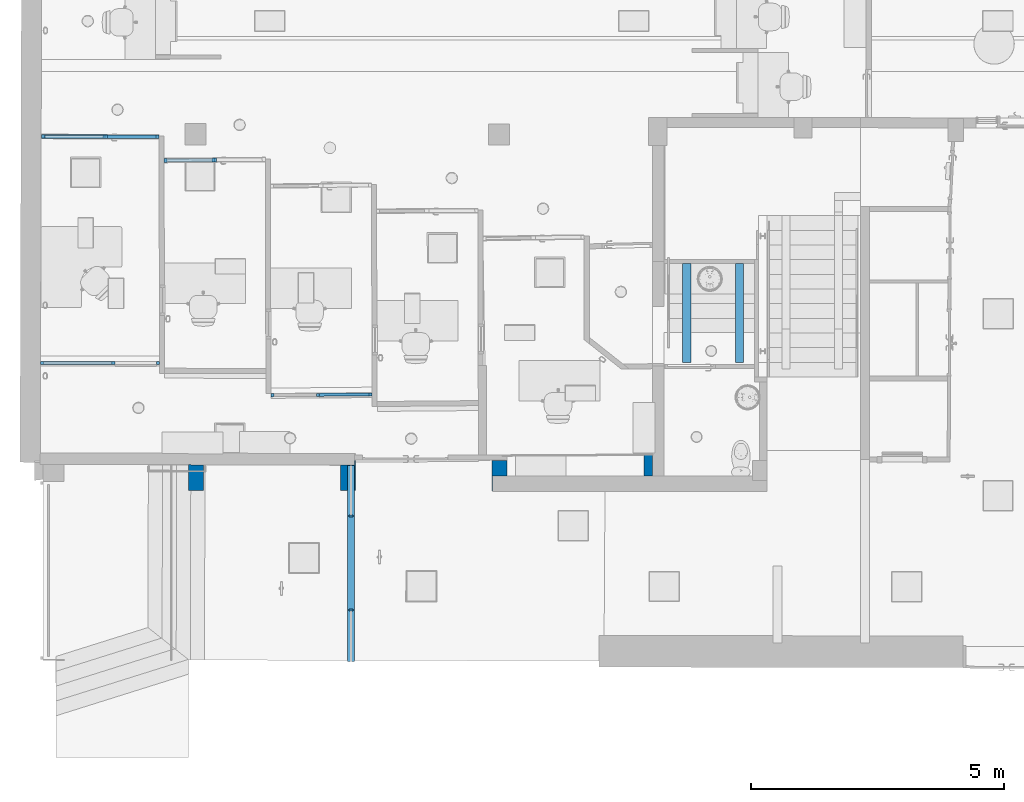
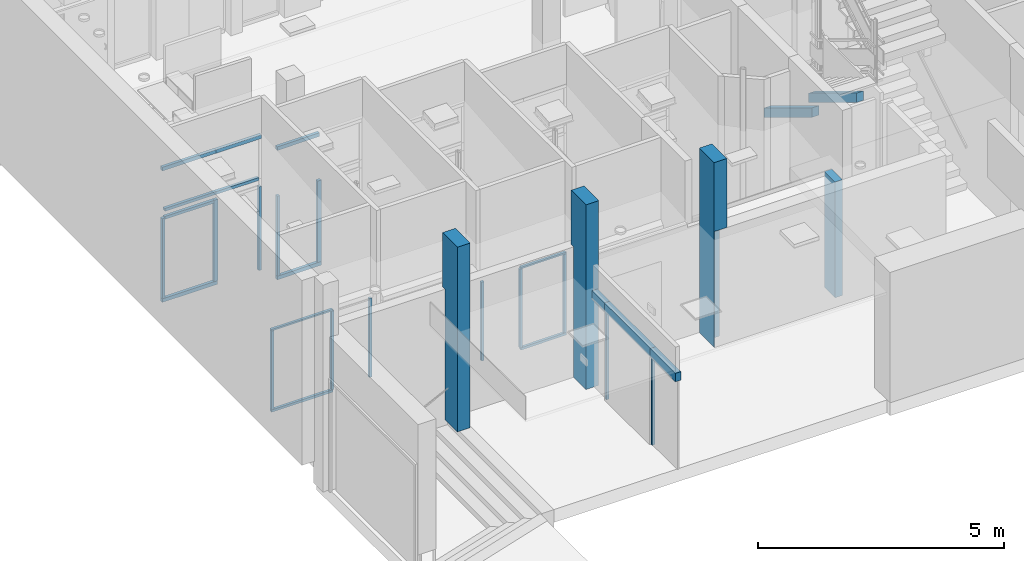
# One storey, part 6 of 128: 30 members, 4 columns, 6 elements without a shape of their own.
"""IFC2X3 building model written with IfcOpenShell, lengths in metres."""

from ifc_helpers import new_model, entity, si_unit, converted_unit, derived_unit, direction, frame, frame_2d, origin, origin_2d_with_axis, place, context, subcontext, project, spatial, polyline, rectangle, outline, extrude, faceted_brep, source, transform, mapped, material, type_object, type_shapes, element, aggregate, save


model = new_model("IFC2X3")

# Units and contexts
model_context = context("Model", 3, precision=1e-05, world=origin(), true_north=direction((6.123031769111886e-17, 1.0)))
body_context = subcontext(model_context, "Body", "Model", "MODEL_VIEW")
ifc_project = project(units=[si_unit("LENGTHUNIT", "METRE"), si_unit("AREAUNIT", "SQUARE_METRE"), converted_unit("PLANEANGLEUNIT", "DEGREE", entity("IfcPlaneAngleMeasure", 0.017453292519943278), si_unit("PLANEANGLEUNIT", "RADIAN"), dimensions=[0, 0, 0, 0, 0, 0, 0]), derived_unit("THERMALTRANSMITTANCEUNIT", [(si_unit("MASSUNIT", "GRAM", prefix="KILO"), 1), (si_unit("THERMODYNAMICTEMPERATUREUNIT", "KELVIN"), -1), (si_unit("TIMEUNIT", "SECOND"), -3)])], contexts=[model_context])

# Site, building, storey
site_placement = place(None, origin())
site = spatial("IfcSite", under=ifc_project, at=site_placement, Name="Default", CompositionType="ELEMENT")
building_placement = place(site_placement, origin())
building = spatial("IfcBuilding", under=site, at=building_placement, CompositionType="ELEMENT")
storey_placement = place(building_placement, origin())
storey = spatial("IfcBuildingStorey", under=building, at=storey_placement, Name="00_RDC CAF", CompositionType="ELEMENT", Elevation=2.4982504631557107e-13)

# Columns
ifc_material_1 = material(Name="STR - Beton")
column_type_1 = type_object("IfcColumnType", Name="Po_Beton_Rectangulaire:Po_Beton_Rectangulaire_600x300mm", PredefinedType="COLUMN", material=ifc_material_1)
shared_shape_1 = source(origin(), body_context, "Body", "Brep", [
    faceted_brep([(9.888336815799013, 129.511482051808, 0.0), (9.588337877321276, 129.512280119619, 0.0), (9.58968040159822, 130.0169438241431, 0.0), (9.889679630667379, 130.01625499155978, 0.0), (9.888336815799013, 129.51148205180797, 2.4000000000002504), (9.888336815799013, 129.51148205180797, 2.47000000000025), (9.888336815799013, 129.511482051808, 4.578000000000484), (9.588337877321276, 129.512280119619, 4.578000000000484), (9.588337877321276, 129.512280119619, 2.4700000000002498), (9.588337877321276, 129.512280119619, 2.40000000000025), (9.589934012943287, 130.11227799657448, 4.578000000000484), (9.589934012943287, 130.11227799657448, 3.230000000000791), (9.589680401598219, 130.0169438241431, 3.230000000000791), (9.889932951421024, 130.11147992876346, 4.578000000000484), (9.889932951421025, 130.11147992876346, 3.230000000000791), (9.889679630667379, 130.0162549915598, 3.230000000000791)], [[[0, 1, 2, 3]], [[1, 0, 4, 5, 6, 7, 8, 9]], [[1, 9, 8, 7, 10, 11, 12, 2]], [[10, 13, 14, 11]], [[6, 5, 4, 0, 3, 15, 14, 13]], [[7, 6, 13, 10]], [[12, 15, 3, 2]], [[15, 12, 11, 14]]]),
])
type_shapes(column_type_1, [shared_shape_1])
column_1_placement = place(storey_placement, origin())
element("IfcColumn", 1, at=column_1_placement, inside=storey, type_object=column_type_1, material=ifc_material_1, Name="Po_Beton_Rectangulaire:Po_Beton_Rectangulaire_600x300mm", ObjectType="Po_Beton_Rectangulaire:Po_Beton_Rectangulaire_600x300mm", context=body_context, shape_type="MappedRepresentation", body=[
    mapped(shared_shape_1, transform((0.0, 0.0, 0.0), scale=1.0)),
])
column_type_2 = type_object("IfcColumnType", Name="Po_Beton_Rectangulaire:Po_Beton_Rectangulaire_600x300mm", PredefinedType="COLUMN", material=ifc_material_1)
shared_shape_2 = source(origin(), body_context, "Body", "Brep", [
    faceted_brep([(12.89613188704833, 129.504575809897, 0.0), (12.596132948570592, 129.505373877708, 0.0), (12.597475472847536, 130.01003758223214, 0.0), (12.877128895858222, 130.00939546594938, 0.0), (12.877347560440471, 130.10462790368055, 0.0), (12.897728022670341, 130.10457368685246, 0.0), (12.896131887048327, 129.50457580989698, 2.6000000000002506), (12.896131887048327, 129.50457580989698, 2.6700000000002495), (12.89613188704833, 129.504575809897, 4.578000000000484), (12.59613294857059, 129.505373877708, 4.578000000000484), (12.59613294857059, 129.505373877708, 2.4700000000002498), (12.59613294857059, 129.505373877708, 2.40000000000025), (12.597729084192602, 130.10537175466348, 4.578000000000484), (12.597729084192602, 130.10537175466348, 3.230000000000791), (12.597475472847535, 130.01003758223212, 3.230000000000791), (12.897728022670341, 130.10457368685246, 4.578000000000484), (12.877347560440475, 130.10462790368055, 3.230000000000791), (12.877128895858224, 130.00939546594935, 3.230000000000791)], [[[0, 1, 2, 3, 4, 5]], [[1, 0, 6, 7, 8, 9, 10, 11]], [[1, 11, 10, 9, 12, 13, 14, 2]], [[12, 15, 5, 4, 16, 13]], [[0, 5, 15, 8, 7, 6]], [[9, 8, 15, 12]], [[14, 17, 3, 2]], [[17, 14, 13, 16]], [[3, 17, 16, 4]]]),
])
type_shapes(column_type_2, [shared_shape_2])
column_2_placement = place(storey_placement, origin())
element("IfcColumn", 2, at=column_2_placement, inside=storey, type_object=column_type_2, material=ifc_material_1, Name="Po_Beton_Rectangulaire:Po_Beton_Rectangulaire_600x300mm", ObjectType="Po_Beton_Rectangulaire:Po_Beton_Rectangulaire_600x300mm", context=body_context, shape_type="MappedRepresentation", body=[
    mapped(shared_shape_2, transform((0.0, 0.0, 0.0), scale=1.0)),
])
column_type_3 = type_object("IfcColumnType", Name="Po_Beton_Rectangulaire:Po_Beton_Rectangulaire_600x300mm", PredefinedType="COLUMN", material=ifc_material_1)
shared_shape_3 = source(origin(), body_context, "Body", "Brep", [
    faceted_brep([(15.593644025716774, 129.4984727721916, 0.0), (15.595240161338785, 130.0984706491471, 0.0), (15.895239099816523, 130.09767258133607, 0.0), (15.894421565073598, 129.7903558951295, 0.0), (15.606187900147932, 129.7903558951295, 0.0), (15.606187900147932, 129.49843940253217, 0.0), (15.893642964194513, 129.49767470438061, 4.578000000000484), (15.593644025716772, 129.4984727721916, 4.578000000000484), (15.606187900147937, 129.49843940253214, 2.8694000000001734), (15.893642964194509, 129.4976747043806, 2.8694000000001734), (15.595240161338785, 130.0984706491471, 4.578000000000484), (15.895239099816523, 130.09767258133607, 4.578000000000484), (15.894421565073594, 129.79035589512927, 2.8694000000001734), (15.606187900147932, 129.7903558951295, 2.8694000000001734)], [[[0, 1, 2, 3, 4, 5]], [[6, 7, 0, 5, 8, 9]], [[1, 0, 7, 10]], [[2, 1, 10, 11]], [[2, 11, 6, 9, 12, 3]], [[7, 6, 11, 10]], [[13, 4, 3, 12]], [[4, 13, 8, 5]], [[13, 12, 9, 8]]]),
])
type_shapes(column_type_3, [shared_shape_3])
column_3_placement = place(storey_placement, origin())
element("IfcColumn", 3, at=column_3_placement, inside=storey, type_object=column_type_3, material=ifc_material_1, Name="Po_Beton_Rectangulaire:Po_Beton_Rectangulaire_600x300mm", ObjectType="Po_Beton_Rectangulaire:Po_Beton_Rectangulaire_600x300mm", context=body_context, shape_type="MappedRepresentation", body=[
    mapped(shared_shape_3, transform((0.0, 0.0, 0.0), scale=1.0)),
])
column_type_4 = type_object("IfcColumnType", Name="Po_Beton_Rectangulaire:Po_Beton_Rectangulaire_450x300mm", PredefinedType="COLUMN", material=ifc_material_1)
shared_shape_4 = source(origin(), body_context, "Body", "Brep", [
    faceted_brep([(18.598684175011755, 129.79035589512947, 0.0), (18.59984352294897, 130.22616240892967, 0.0), (18.77071411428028, 130.2257078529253, 0.0), (18.77071411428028, 129.7903558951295, 0.0), (18.59984352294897, 130.22616240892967, 2.8694000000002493), (18.598684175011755, 129.79035589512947, 2.8694000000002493), (18.77071411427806, 130.2257078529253, 2.8694000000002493), (18.77071411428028, 129.7903558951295, 2.8694000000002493)], [[[0, 1, 2, 3]], [[4, 1, 0, 5]], [[1, 4, 6, 2]], [[4, 5, 7, 6]], [[5, 0, 3, 7]], [[3, 2, 6, 7]]]),
])
type_shapes(column_type_4, [shared_shape_4])
column_4_placement = place(storey_placement, origin())
element("IfcColumn", 4, at=column_4_placement, inside=storey, type_object=column_type_4, material=ifc_material_1, Name="Po_Beton_Rectangulaire:Po_Beton_Rectangulaire_450x300mm", ObjectType="Po_Beton_Rectangulaire:Po_Beton_Rectangulaire_450x300mm", context=body_context, shape_type="MappedRepresentation", body=[
    mapped(shared_shape_4, transform((0.0, 0.0, 0.0), scale=1.0)),
])

# Curtain wall, member
curtain_wall_type_1 = type_object("IfcCurtainWallType", Name="Mur-rideau:M.Ri_Vitre_40mm_Montant_70X90mm", PredefinedType="NOTDEFINED")
curtain_wall_1_placement = place(storey_placement, origin())
curtain_wall_1 = element("IfcCurtainWall", 5, at=curtain_wall_1_placement, inside=storey, type_object=curtain_wall_type_1, Name="Mur-rideau:M.Ri_Vitre_40mm_Montant_70X90mm", ObjectType="Mur-rideau:M.Ri_Vitre_40mm_Montant_70X90mm")
ifc_material_2 = material(Name="ARC - M.In - Blanc")
member_type_1 = type_object("IfcMemberType", Name="Meneau rectangulaire:M.Ri.M_Int_Rectangulaire_60x70mm", PredefinedType="MULLION", material=ifc_material_2)
shared_shape_5 = source(origin(), body_context, "Body", "SweptSolid", [
    extrude(rectangle(XDim=0.06, YDim=0.07, at=frame_2d((0.0, 3.469446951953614e-18), x_axis=(1.0, 0.0))), frame((-0.03, 0.0, -2.0749999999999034), z_axis=(0.0, 0.0, 1.0), x_axis=(-1.0, 0.0, 0.0)), (0.0, 0.0, 1.0), 2.0749999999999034),
])
type_shapes(member_type_1, [shared_shape_5])
member_1_placement = place(curtain_wall_1_placement, frame((9.008450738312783, 136.5017976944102, 0.0), z_axis=(0.0, 0.0, -1.0), x_axis=(1.0, 0.0, 0.0)))
member_1 = element("IfcMember", 6, at=member_1_placement, type_object=member_type_1, material=ifc_material_2, Name="Meneau rectangulaire:M.Ri.M_Int_Rectangulaire_60x70mm", ObjectType="Meneau rectangulaire:M.Ri.M_Int_Rectangulaire_60x70mm", context=body_context, shape_type="MappedRepresentation", body=[
    mapped(shared_shape_5, transform((0.0, 0.0, 0.0), scale=1.0)),
])

curtain_wall_2_placement = place(storey_placement, origin())
curtain_wall_2 = element("IfcCurtainWall", 7, at=curtain_wall_2_placement, inside=storey, type_object=curtain_wall_type_1, Name="Mur-rideau:M.Ri_Vitre_40mm_Montant_70X90mm", ObjectType="Mur-rideau:M.Ri_Vitre_40mm_Montant_70X90mm")
member_type_2 = type_object("IfcMemberType", Name="Meneau rectangulaire:M.Ri.M_Int_Rectangulaire_60x70mm", PredefinedType="MULLION", material=ifc_material_2)
shared_shape_6 = source(origin(), body_context, "Body", "SweptSolid", [
    extrude(rectangle(XDim=0.06, YDim=0.07, at=frame_2d((0.0, 3.469446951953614e-18), x_axis=(1.0, 0.0))), frame((-0.03, 0.0, -1.9849999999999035), z_axis=(0.0, 0.0, 1.0), x_axis=(-1.0, 0.0, 0.0)), (0.0, 0.0, 1.0), 1.9849999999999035),
])
type_shapes(member_type_2, [shared_shape_6])
member_2_placement = place(curtain_wall_2_placement, frame((9.10973142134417, 136.0333123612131, 2.0749999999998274), z_axis=(0.0, 0.0, 1.0), x_axis=(-0.9999489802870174, -0.010101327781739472, 0.0)))
member_2 = element("IfcMember", 8, at=member_2_placement, type_object=member_type_2, material=ifc_material_2, Name="Meneau rectangulaire:M.Ri.M_Int_Rectangulaire_60x70mm", ObjectType="Meneau rectangulaire:M.Ri.M_Int_Rectangulaire_60x70mm", context=body_context, shape_type="MappedRepresentation", body=[
    mapped(shared_shape_6, transform((0.0, 0.0, 0.0), scale=1.0)),
])

# Member
member_3_placement = place(curtain_wall_1_placement, frame((6.6901867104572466, 136.50948179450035, 2.074999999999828), z_axis=(0.0, 0.0, 1.0), x_axis=(-1.0, 0.0, 0.0)))
member_3 = element("IfcMember", 9, at=member_3_placement, type_object=member_type_2, material=ifc_material_2, Name="Meneau rectangulaire:M.Ri.M_Int_Rectangulaire_60x70mm", ObjectType="Meneau rectangulaire:M.Ri.M_Int_Rectangulaire_60x70mm", context=body_context, shape_type="MappedRepresentation", body=[
    mapped(shared_shape_6, transform((0.0, 0.0, 0.0), scale=1.0)),
])

member_type_3 = type_object("IfcMemberType", Name="Meneau rectangulaire:M.Ri.M_Int_Rectangulaire_90x70mm", PredefinedType="MULLION", material=ifc_material_2)
shared_shape_7 = source(origin(), body_context, "Body", "SweptSolid", [
    extrude(rectangle(XDim=0.09, YDim=0.06999999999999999, at=origin_2d_with_axis()), frame((-0.045, 0.0, -0.99572234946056), z_axis=(0.0, 0.0, 1.0), x_axis=(-1.0, 0.0, 0.0)), (0.0, 0.0, 1.0), 0.9957223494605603),
])
type_shapes(member_type_3, [shared_shape_7])
member_4_placement = place(curtain_wall_2_placement, frame((10.105402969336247, 136.04337047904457, 3.294999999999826), z_axis=(0.9999489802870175, 0.010101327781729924, 0.0), x_axis=(0.0, 0.0, 1.0)))
member_4 = element("IfcMember", 10, at=member_4_placement, type_object=member_type_3, material=ifc_material_2, Name="Meneau rectangulaire:M.Ri.M_Int_Rectangulaire_90x70mm", ObjectType="Meneau rectangulaire:M.Ri.M_Int_Rectangulaire_90x70mm", context=body_context, shape_type="MappedRepresentation", body=[
    mapped(shared_shape_7, transform((0.0, 0.0, 0.0), scale=1.0)),
])

member_type_4 = type_object("IfcMemberType", Name="Meneau rectangulaire:M.Ri.M_Int_Rectangulaire_90x70mm", PredefinedType="MULLION", material=ifc_material_2)
shared_shape_8 = source(origin(), body_context, "Body", "SweptSolid", [
    extrude(rectangle(XDim=0.09, YDim=0.07, at=origin_2d_with_axis()), frame((0.0, 0.0, -2.019999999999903), z_axis=(0.0, 0.0, 1.0), x_axis=(-1.0, 0.0, 0.0)), (0.0, 0.0, 1.0), 2.019999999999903),
])
type_shapes(member_type_4, [shared_shape_8])
member_5_placement = place(curtain_wall_2_placement, frame((10.105402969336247, 136.04337047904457, 0.08999999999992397), z_axis=(0.0, 0.0, -1.0), x_axis=(0.9999489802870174, 0.010101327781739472, 0.0)))
member_5 = element("IfcMember", 11, at=member_5_placement, type_object=member_type_4, material=ifc_material_2, Name="Meneau rectangulaire:M.Ri.M_Int_Rectangulaire_90x70mm", ObjectType="Meneau rectangulaire:M.Ri.M_Int_Rectangulaire_90x70mm", context=body_context, shape_type="MappedRepresentation", body=[
    mapped(shared_shape_8, transform((0.0, 0.0, 0.0), scale=1.0)),
])

member_6_placement = place(curtain_wall_1_placement, frame((7.944361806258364, 136.50532471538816, 0.08999999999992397), z_axis=(0.0, 0.0, -1.0), x_axis=(1.0, 0.0, 0.0)))
member_6 = element("IfcMember", 12, at=member_6_placement, type_object=member_type_4, material=ifc_material_2, Name="Meneau rectangulaire:M.Ri.M_Int_Rectangulaire_90x70mm", ObjectType="Meneau rectangulaire:M.Ri.M_Int_Rectangulaire_90x70mm", context=body_context, shape_type="MappedRepresentation", body=[
    mapped(shared_shape_8, transform((0.0, 0.0, 0.0), scale=1.0)),
])

member_type_5 = type_object("IfcMemberType", Name="Meneau rectangulaire:M.Ri.M_Int_Rectangulaire_90x70mm", PredefinedType="MULLION", material=ifc_material_2)
shared_shape_9 = source(origin(), body_context, "Body", "SweptSolid", [
    extrude(rectangle(XDim=0.09, YDim=0.06999999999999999, at=origin_2d_with_axis()), frame((-0.045, 0.0, -1.0407223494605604), z_axis=(0.0, 0.0, 1.0), x_axis=(-1.0, 0.0, 0.0)), (0.0, 0.0, 1.0), 1.0407223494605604),
])
type_shapes(member_type_5, [shared_shape_9])
member_7_placement = place(curtain_wall_2_placement, frame((9.109731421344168, 136.03331236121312, 0.0), z_axis=(-0.9999489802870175, -0.010101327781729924, 0.0), x_axis=(0.0, 0.0, -1.0)))
member_7 = element("IfcMember", 13, at=member_7_placement, type_object=member_type_5, material=ifc_material_2, Name="Meneau rectangulaire:M.Ri.M_Int_Rectangulaire_90x70mm", ObjectType="Meneau rectangulaire:M.Ri.M_Int_Rectangulaire_90x70mm", context=body_context, shape_type="MappedRepresentation", body=[
    mapped(shared_shape_9, transform((0.0, 0.0, 0.0), scale=1.0)),
])

aggregate(curtain_wall_2, [member_2, member_4, member_5, member_7])

member_type_6 = type_object("IfcMemberType", Name="Meneau rectangulaire:M.Ri.M_Int_Rectangulaire_90x70mm", PredefinedType="MULLION", material=ifc_material_2)
shared_shape_10 = source(origin(), body_context, "Body", "SweptSolid", [
    extrude(rectangle(XDim=0.09, YDim=0.06999999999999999, at=origin_2d_with_axis()), frame((-0.045, 0.0, -1.0640947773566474), z_axis=(0.0, 0.0, 1.0), x_axis=(-1.0, 0.0, 0.0)), (0.0, 0.0, 1.0), 1.0640947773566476),
])
type_shapes(member_type_6, [shared_shape_10])
member_8_placement = place(curtain_wall_1_placement, frame((9.008450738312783, 136.5017976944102, 3.3499999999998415), z_axis=(1.0, 0.0, 0.0), x_axis=(0.0, 0.0, 1.0)))
member_8 = element("IfcMember", 14, at=member_8_placement, type_object=member_type_6, material=ifc_material_2, Name="Meneau rectangulaire:M.Ri.M_Int_Rectangulaire_90x70mm", ObjectType="Meneau rectangulaire:M.Ri.M_Int_Rectangulaire_90x70mm", context=body_context, shape_type="MappedRepresentation", body=[
    mapped(shared_shape_10, transform((0.0, 0.0, 0.0), scale=1.0)),
])

member_type_7 = type_object("IfcMemberType", Name="Meneau rectangulaire:M.Ri.M_Int_Rectangulaire_90x70mm", PredefinedType="MULLION", material=ifc_material_2)
shared_shape_11 = source(origin(), body_context, "Body", "SweptSolid", [
    extrude(rectangle(XDim=0.09, YDim=0.06999999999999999, at=origin_2d_with_axis()), frame((-0.045, 0.0, -1.2541819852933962), z_axis=(0.0, 0.0, 1.0), x_axis=(-1.0, 0.0, 0.0)), (0.0, 0.0, 1.0), 1.2541819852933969),
])
type_shapes(member_type_7, [shared_shape_11])
member_9_placement = place(curtain_wall_1_placement, frame((7.944361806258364, 136.50532471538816, 3.3499999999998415), z_axis=(1.0, 0.0, 0.0), x_axis=(0.0, 0.0, 1.0)))
member_9 = element("IfcMember", 15, at=member_9_placement, type_object=member_type_7, material=ifc_material_2, Name="Meneau rectangulaire:M.Ri.M_Int_Rectangulaire_90x70mm", ObjectType="Meneau rectangulaire:M.Ri.M_Int_Rectangulaire_90x70mm", context=body_context, shape_type="MappedRepresentation", body=[
    mapped(shared_shape_11, transform((0.0, 0.0, 0.0), scale=1.0)),
])

member_type_8 = type_object("IfcMemberType", Name="Meneau rectangulaire:M.Ri.M_Int_Rectangulaire_70x70mm", PredefinedType="MULLION", material=ifc_material_2)
shared_shape_12 = source(origin(), body_context, "Body", "SweptSolid", [
    extrude(rectangle(XDim=0.07, YDim=0.07, at=origin_2d_with_axis()), frame((0.0, 0.0, -1.1491819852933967), z_axis=(0.0, 0.0, 1.0), x_axis=(-1.0, 0.0, 0.0)), (0.0, 0.0, 1.0), 1.1491819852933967),
])
type_shapes(member_type_8, [shared_shape_12])
member_10_placement = place(curtain_wall_1_placement, frame((7.899362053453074, 136.50547387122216, 2.074999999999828), z_axis=(1.0, 0.0, 0.0), x_axis=(0.0, 0.0, 1.0)))
member_10 = element("IfcMember", 16, at=member_10_placement, type_object=member_type_8, material=ifc_material_2, Name="Meneau rectangulaire:M.Ri.M_Int_Rectangulaire_70x70mm", ObjectType="Meneau rectangulaire:M.Ri.M_Int_Rectangulaire_70x70mm", context=body_context, shape_type="MappedRepresentation", body=[
    mapped(shared_shape_12, transform((0.0, 0.0, 0.0), scale=1.0)),
])

member_type_9 = type_object("IfcMemberType", Name="Meneau rectangulaire:M.Ri.M_Int_Rectangulaire_70x70mm", PredefinedType="MULLION", material=ifc_material_2)
shared_shape_13 = source(origin(), body_context, "Body", "SweptSolid", [
    extrude(rectangle(XDim=0.07, YDim=0.07, at=origin_2d_with_axis()), frame((0.0, 0.0, -1.0040947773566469), z_axis=(0.0, 0.0, 1.0), x_axis=(-1.0, 0.0, 0.0)), (0.0, 0.0, 1.0), 1.0040947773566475),
])
type_shapes(member_type_9, [shared_shape_13])
member_11_placement = place(curtain_wall_1_placement, frame((8.94845106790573, 136.50199656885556, 2.2749999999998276), z_axis=(1.0, 0.0, 0.0), x_axis=(0.0, 0.0, 1.0)))
member_11 = element("IfcMember", 17, at=member_11_placement, type_object=member_type_9, material=ifc_material_2, Name="Meneau rectangulaire:M.Ri.M_Int_Rectangulaire_70x70mm", ObjectType="Meneau rectangulaire:M.Ri.M_Int_Rectangulaire_70x70mm", context=body_context, shape_type="MappedRepresentation", body=[
    mapped(shared_shape_13, transform((0.0, 0.0, 0.0), scale=1.0)),
])

member_type_10 = type_object("IfcMemberType", Name="Meneau rectangulaire:M.Ri.M_Int_Rectangulaire_70x70mm", PredefinedType="MULLION", material=ifc_material_2)
shared_shape_14 = source(origin(), body_context, "Body", "SweptSolid", [
    extrude(rectangle(XDim=0.07, YDim=0.07, at=frame_2d((0.0, 3.469446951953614e-18), x_axis=(1.0, 0.0))), frame((0.0, 0.0, -1.1941819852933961), z_axis=(0.0, 0.0, 1.0), x_axis=(-1.0, 0.0, 0.0)), (0.0, 0.0, 1.0), 1.1941819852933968),
])
type_shapes(member_type_10, [shared_shape_14])
member_12_placement = place(curtain_wall_1_placement, frame((7.944361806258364, 136.50532471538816, 2.2749999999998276), z_axis=(1.0, 0.0, 0.0), x_axis=(0.0, 0.0, 1.0)))
member_12 = element("IfcMember", 18, at=member_12_placement, type_object=member_type_10, material=ifc_material_2, Name="Meneau rectangulaire:M.Ri.M_Int_Rectangulaire_70x70mm", ObjectType="Meneau rectangulaire:M.Ri.M_Int_Rectangulaire_70x70mm", context=body_context, shape_type="MappedRepresentation", body=[
    mapped(shared_shape_14, transform((0.0, 0.0, 0.0), scale=1.0)),
])

member_type_11 = type_object("IfcMemberType", Name="Meneau rectangulaire:M.Ri.M_Int_Rectangulaire_90x70mm", PredefinedType="MULLION", material=ifc_material_2)
shared_shape_15 = source(origin(), body_context, "Body", "SweptSolid", [
    extrude(rectangle(XDim=0.09, YDim=0.06999999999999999, at=origin_2d_with_axis()), frame((-0.045, 0.0, -1.2991819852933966), z_axis=(0.0, 0.0, 1.0), x_axis=(-1.0, 0.0, 0.0)), (0.0, 0.0, 1.0), 1.2991819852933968),
])
type_shapes(member_type_11, [shared_shape_15])
member_13_placement = place(curtain_wall_1_placement, frame((6.6901867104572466, 136.50948179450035, 0.0), z_axis=(-1.0, 0.0, 0.0), x_axis=(0.0, 0.0, -1.0)))
member_13 = element("IfcMember", 19, at=member_13_placement, type_object=member_type_11, material=ifc_material_2, Name="Meneau rectangulaire:M.Ri.M_Int_Rectangulaire_90x70mm", ObjectType="Meneau rectangulaire:M.Ri.M_Int_Rectangulaire_90x70mm", context=body_context, shape_type="MappedRepresentation", body=[
    mapped(shared_shape_15, transform((0.0, 0.0, 0.0), scale=1.0)),
])

aggregate(curtain_wall_1, [member_8, member_1, member_3, member_9, member_6, member_10, member_11, member_12, member_13])

# Stair, members
type_product = type_object("IfcTypeProduct", Name="Escalier assemblé:E_Escalier_Assemble_Béton 2")
stair_placement = place(storey_placement, origin())
stair = element("IfcStair", 20, at=stair_placement, inside=storey, type_object=type_product, Name="Escalier assemblé:Escalier", ObjectType="Escalier assemblé:E_Escalier_Assemble_Béton 2", ShapeType="NOTDEFINED")
ifc_material_3 = material(Name="<Unnamed>")
member_type_12 = type_object("IfcMemberType", Name="Limon à crémaillère:Limon à crémaillère - Largeur 160 mm 2", PredefinedType="STRINGER")
member_14_placement = place(stair_placement, origin())
member_14 = element("IfcMember", 21, at=member_14_placement, type_object=member_type_12, material=ifc_material_3, Name="Escalier assemblé:Escalier:459485 Stringer 3", ObjectType="Limon à crémaillère:Limon à crémaillère - Largeur 160 mm 2", context=body_context, shape_type="SweptSolid", body=[
    extrude(outline(polyline([(-1.0191635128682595, -0.15999999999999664), (1.2668029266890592, -0.15999999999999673), (1.1453705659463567, 0.03999999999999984), (0.806102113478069, 0.04000000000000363), (0.46683366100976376, 0.04000000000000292), (0.1275652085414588, 0.04000000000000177), (-0.21170324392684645, 0.04000000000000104), (-0.5509716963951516, 0.04000000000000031), (-0.8902401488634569, 0.03999999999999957), (-1.1405958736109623, 0.04000000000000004), (-1.0191635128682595, -0.15999999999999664)])), frame((20.406521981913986, 132.99768232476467, 2.447090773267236), z_axis=(1.0, 0.0, 0.0), x_axis=(0.0, 0.8547803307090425, -0.5189899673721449)), (0.0, 0.0, 1.0), 0.15999999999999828),
])
member_15_placement = place(stair_placement, origin())
member_15 = element("IfcMember", 22, at=member_15_placement, type_object=member_type_12, material=ifc_material_3, Name="Escalier assemblé:Escalier:459485 Stringer 4", ObjectType="Limon à crémaillère:Limon à crémaillère - Largeur 160 mm 2", context=body_context, shape_type="SweptSolid", body=[
    extrude(outline(polyline([(-1.01916351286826, -0.1599999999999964), (1.2668029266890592, -0.15999999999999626), (1.1453705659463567, 0.040000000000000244), (0.806102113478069, 0.04000000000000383), (0.46683366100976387, 0.04000000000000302), (0.1275652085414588, 0.0400000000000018), (-0.21170324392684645, 0.04000000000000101), (-0.5509716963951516, 0.040000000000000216), (-0.8902401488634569, 0.03999999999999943), (-1.1405958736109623, 0.03999999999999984), (-1.01916351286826, -0.1599999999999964)])), frame((19.366521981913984, 132.99768232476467, 2.447090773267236), z_axis=(1.0, 0.0, 0.0), x_axis=(0.0, 0.8547803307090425, -0.518989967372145)), (0.0, 0.0, 1.0), 0.15999999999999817),
])
aggregate(stair, [member_14, member_15])

# Curtain wall, members
curtain_wall_type_2 = type_object("IfcCurtainWallType", Name="Mur-rideau:M.Ri_Vitre_40mm_Montant_50X50mm_Avec_Décalage", PredefinedType="NOTDEFINED")
curtain_wall_3_placement = place(storey_placement, origin())
curtain_wall_3 = element("IfcCurtainWall", 23, at=curtain_wall_3_placement, inside=storey, type_object=curtain_wall_type_2, Name="Mur-rideau:M.Ri_Vitre_40mm_Montant_50X50mm_Avec_Décalage", ObjectType="Mur-rideau:M.Ri_Vitre_40mm_Montant_50X50mm_Avec_Décalage")
member_type_13 = type_object("IfcMemberType", Name="Meneau rectangulaire:M.Ri.M_Int_Rectangulaire_60x60mm_Avec_Décalage", PredefinedType="MULLION", material=ifc_material_2)
shared_shape_16 = source(origin(), body_context, "Body", "SweptSolid", [
    extrude(rectangle(XDim=0.06, YDim=0.05999999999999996, at=origin_2d_with_axis()), frame((-0.03, 0.085, -1.4378138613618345), z_axis=(0.0, 0.0, 1.0), x_axis=(-1.0, 0.0, 0.0)), (0.0, 0.0, 1.0), 1.4378138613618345),
])
type_shapes(member_type_13, [shared_shape_16])
member_16_placement = place(curtain_wall_3_placement, frame((6.666951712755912, 132.11264719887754, 0.0), z_axis=(-1.0, 0.0, 0.0), x_axis=(0.0, 0.0, -1.0)))
member_16 = element("IfcMember", 24, at=member_16_placement, type_object=member_type_13, material=ifc_material_2, Name="Meneau rectangulaire:M.Ri.M_Int_Rectangulaire_60x60mm_Avec_Décalage", ObjectType="Meneau rectangulaire:M.Ri.M_Int_Rectangulaire_60x60mm_Avec_Décalage", context=body_context, shape_type="MappedRepresentation", body=[
    mapped(shared_shape_16, transform((0.0, 0.0, 0.0), scale=1.0)),
])
member_type_14 = type_object("IfcMemberType", Name="Meneau rectangulaire:M.Ri.M_Int_Rectangulaire_60x60mm_Avec_Décalage", PredefinedType="MULLION", material=ifc_material_2)
shared_shape_17 = source(origin(), body_context, "Body", "SweptSolid", [
    extrude(rectangle(XDim=0.06, YDim=0.05999999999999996, at=origin_2d_with_axis()), frame((-0.03, 0.085, -1.9524999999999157), z_axis=(0.0, 0.0, 1.0), x_axis=(-1.0, 0.0, 0.0)), (0.0, 0.0, 1.0), 1.9524999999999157),
])
type_shapes(member_type_14, [shared_shape_17])
member_17_placement = place(curtain_wall_3_placement, frame((9.019765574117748, 132.11264719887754, 0.059999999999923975), z_axis=(0.0, 0.0, -1.0), x_axis=(1.0, 0.0, 0.0)))
member_17 = element("IfcMember", 25, at=member_17_placement, type_object=member_type_14, material=ifc_material_2, Name="Meneau rectangulaire:M.Ri.M_Int_Rectangulaire_60x60mm_Avec_Décalage", ObjectType="Meneau rectangulaire:M.Ri.M_Int_Rectangulaire_60x60mm_Avec_Décalage", context=body_context, shape_type="MappedRepresentation", body=[
    mapped(shared_shape_17, transform((0.0, 0.0, 0.0), scale=1.0)),
])

# Curtain wall, member
curtain_wall_4_placement = place(storey_placement, origin())
curtain_wall_4 = element("IfcCurtainWall", 26, at=curtain_wall_4_placement, inside=storey, type_object=curtain_wall_type_2, Name="Mur-rideau:M.Ri_Vitre_40mm_Montant_50X50mm_Avec_Décalage", ObjectType="Mur-rideau:M.Ri_Vitre_40mm_Montant_50X50mm_Avec_Décalage")
member_18_placement = place(curtain_wall_4_placement, frame((13.22392646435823, 131.49574157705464, 0.059999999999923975), z_axis=(0.0, 0.0, -1.0), x_axis=(0.9999522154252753, 0.009775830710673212, 0.0)))
member_18 = element("IfcMember", 27, at=member_18_placement, type_object=member_type_14, material=ifc_material_2, Name="Meneau rectangulaire:M.Ri.M_Int_Rectangulaire_60x60mm_Avec_Décalage", ObjectType="Meneau rectangulaire:M.Ri.M_Int_Rectangulaire_60x60mm_Avec_Décalage", context=body_context, shape_type="MappedRepresentation", body=[
    mapped(shared_shape_17, transform((0.0, 0.0, 0.0), scale=1.0)),
])

# Member
member_type_15 = type_object("IfcMemberType", Name="Meneau rectangulaire:M.Ri.M_Int_Rectangulaire_60x60mm_Avec_Décalage", PredefinedType="MULLION", material=ifc_material_2)
shared_shape_18 = source(origin(), body_context, "Body", "SweptSolid", [
    extrude(rectangle(XDim=0.06, YDim=0.05999999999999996, at=origin_2d_with_axis()), frame((-0.03, 0.085, -1.9524999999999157), z_axis=(0.0, 0.0, 1.0), x_axis=(-1.0, 0.0, 0.0)), (0.0, 0.0, 1.0), 1.9524999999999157),
])
type_shapes(member_type_15, [shared_shape_18])
member_19_placement = place(curtain_wall_3_placement, frame((6.666951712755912, 132.11264719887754, 2.0124999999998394), z_axis=(0.0, 0.0, 1.0), x_axis=(-1.0, 0.0, 0.0)))
member_19 = element("IfcMember", 28, at=member_19_placement, type_object=member_type_15, material=ifc_material_2, Name="Meneau rectangulaire:M.Ri.M_Int_Rectangulaire_60x60mm_Avec_Décalage", ObjectType="Meneau rectangulaire:M.Ri.M_Int_Rectangulaire_60x60mm_Avec_Décalage", context=body_context, shape_type="MappedRepresentation", body=[
    mapped(shared_shape_18, transform((0.0, 0.0, 0.0), scale=1.0)),
])

member_20_placement = place(curtain_wall_4_placement, frame((11.223679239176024, 131.4761865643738, 2.0124999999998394), z_axis=(0.0, 0.0, 1.0), x_axis=(-0.9999522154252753, -0.009775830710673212, 0.0)))
member_20 = element("IfcMember", 29, at=member_20_placement, type_object=member_type_15, material=ifc_material_2, Name="Meneau rectangulaire:M.Ri.M_Int_Rectangulaire_60x60mm_Avec_Décalage", ObjectType="Meneau rectangulaire:M.Ri.M_Int_Rectangulaire_60x60mm_Avec_Décalage", context=body_context, shape_type="MappedRepresentation", body=[
    mapped(shared_shape_18, transform((0.0, 0.0, 0.0), scale=1.0)),
])

member_type_16 = type_object("IfcMemberType", Name="Meneau rectangulaire:M.Ri.M_Int_Rectangulaire_40x60mm_Avec_Décalage", PredefinedType="MULLION", material=ifc_material_2)
shared_shape_19 = source(origin(), body_context, "Body", "SweptSolid", [
    extrude(rectangle(XDim=0.04, YDim=0.05999999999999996, at=origin_2d_with_axis()), frame((-0.02, 0.085, -1.4378138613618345), z_axis=(0.0, 0.0, 1.0), x_axis=(-1.0, 0.0, 0.0)), (0.0, 0.0, 1.0), 1.4378138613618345),
])
type_shapes(member_type_16, [shared_shape_19])
member_21_placement = place(curtain_wall_3_placement, frame((8.104765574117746, 132.11264719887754, 2.0524999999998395), z_axis=(1.0, 0.0, 0.0), x_axis=(0.0, 0.0, 1.0)))
member_21 = element("IfcMember", 30, at=member_21_placement, type_object=member_type_16, material=ifc_material_2, Name="Meneau rectangulaire:M.Ri.M_Int_Rectangulaire_40x60mm_Avec_Décalage", ObjectType="Meneau rectangulaire:M.Ri.M_Int_Rectangulaire_40x60mm_Avec_Décalage", context=body_context, shape_type="MappedRepresentation", body=[
    mapped(shared_shape_19, transform((0.0, 0.0, 0.0), scale=1.0)),
])

member_type_17 = type_object("IfcMemberType", Name="Meneau rectangulaire:M.Ri.M_Int_Rectangulaire_60x60mm_Avec_Décalage", PredefinedType="MULLION", material=ifc_material_2)
shared_shape_20 = source(origin(), body_context, "Body", "SweptSolid", [
    extrude(rectangle(XDim=0.06, YDim=0.05999999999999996, at=origin_2d_with_axis()), frame((0.0, 0.085, -1.9524999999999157), z_axis=(0.0, 0.0, 1.0), x_axis=(-1.0, 0.0, 0.0)), (0.0, 0.0, 1.0), 1.9524999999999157),
])
type_shapes(member_type_17, [shared_shape_20])
member_22_placement = place(curtain_wall_3_placement, frame((8.104765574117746, 132.11264719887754, 0.059999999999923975), z_axis=(0.0, 0.0, -1.0), x_axis=(1.0, 0.0, 0.0)))
member_22 = element("IfcMember", 31, at=member_22_placement, type_object=member_type_17, material=ifc_material_2, Name="Meneau rectangulaire:M.Ri.M_Int_Rectangulaire_60x60mm_Avec_Décalage", ObjectType="Meneau rectangulaire:M.Ri.M_Int_Rectangulaire_60x60mm_Avec_Décalage", context=body_context, shape_type="MappedRepresentation", body=[
    mapped(shared_shape_20, transform((0.0, 0.0, 0.0), scale=1.0)),
])

aggregate(curtain_wall_3, [member_16, member_17, member_19, member_21, member_22])

member_23_placement = place(curtain_wall_4_placement, frame((12.15363592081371, 131.4852780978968, 0.059999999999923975), z_axis=(0.0, 0.0, -1.0), x_axis=(0.9999522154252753, 0.009775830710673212, 0.0)))
member_23 = element("IfcMember", 32, at=member_23_placement, type_object=member_type_17, material=ifc_material_2, Name="Meneau rectangulaire:M.Ri.M_Int_Rectangulaire_60x60mm_Avec_Décalage", ObjectType="Meneau rectangulaire:M.Ri.M_Int_Rectangulaire_60x60mm_Avec_Décalage", context=body_context, shape_type="MappedRepresentation", body=[
    mapped(shared_shape_20, transform((0.0, 0.0, 0.0), scale=1.0)),
])

member_type_18 = type_object("IfcMemberType", Name="Meneau rectangulaire:M.Ri.M_Int_Rectangulaire_40x60mm_Avec_Décalage", PredefinedType="MULLION", material=ifc_material_2)
shared_shape_21 = source(origin(), body_context, "Body", "SweptSolid", [
    extrude(rectangle(XDim=0.04, YDim=0.05999999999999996, at=origin_2d_with_axis()), frame((-0.02, 0.085, -1.0703416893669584), z_axis=(0.0, 0.0, 1.0), x_axis=(-1.0, 0.0, 0.0)), (0.0, 0.0, 1.0), 1.0703416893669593),
])
type_shapes(member_type_18, [shared_shape_21])
member_24_placement = place(curtain_wall_4_placement, frame((13.223926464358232, 131.49574157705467, 2.0524999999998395), z_axis=(0.9999522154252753, 0.009775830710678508, 0.0), x_axis=(0.0, 0.0, 1.0)))
member_24 = element("IfcMember", 33, at=member_24_placement, type_object=member_type_18, material=ifc_material_2, Name="Meneau rectangulaire:M.Ri.M_Int_Rectangulaire_40x60mm_Avec_Décalage", ObjectType="Meneau rectangulaire:M.Ri.M_Int_Rectangulaire_40x60mm_Avec_Décalage", context=body_context, shape_type="MappedRepresentation", body=[
    mapped(shared_shape_21, transform((0.0, 0.0, 0.0), scale=1.0)),
])

member_type_19 = type_object("IfcMemberType", Name="Meneau rectangulaire:M.Ri.M_Int_Rectangulaire_60x60mm_Avec_Décalage", PredefinedType="MULLION", material=ifc_material_2)
shared_shape_22 = source(origin(), body_context, "Body", "SweptSolid", [
    extrude(rectangle(XDim=0.06, YDim=0.05999999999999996, at=origin_2d_with_axis()), frame((-0.03, 0.085, -1.0703416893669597), z_axis=(0.0, 0.0, 1.0), x_axis=(-1.0, 0.0, 0.0)), (0.0, 0.0, 1.0), 1.0703416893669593),
])
type_shapes(member_type_19, [shared_shape_22])
member_25_placement = place(curtain_wall_4_placement, frame((12.153635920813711, 131.48527809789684, 0.0), z_axis=(-0.9999522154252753, -0.009775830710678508, 0.0), x_axis=(0.0, 0.0, -1.0)))
member_25 = element("IfcMember", 34, at=member_25_placement, type_object=member_type_19, material=ifc_material_2, Name="Meneau rectangulaire:M.Ri.M_Int_Rectangulaire_60x60mm_Avec_Décalage", ObjectType="Meneau rectangulaire:M.Ri.M_Int_Rectangulaire_60x60mm_Avec_Décalage", context=body_context, shape_type="MappedRepresentation", body=[
    mapped(shared_shape_22, transform((0.0, 0.0, 0.0), scale=1.0)),
])

aggregate(curtain_wall_4, [member_24, member_18, member_20, member_25, member_23])

# Curtain wall, members
curtain_wall_type_3 = type_object("IfcCurtainWallType", PredefinedType="NOTDEFINED")
curtain_wall_5_placement = place(storey_placement, origin())
curtain_wall_5 = element("IfcCurtainWall", 35, at=curtain_wall_5_placement, inside=storey, type_object=curtain_wall_type_3)
member_type_20 = type_object("IfcMemberType", Name="Meneau rectangulaire:M.Ri.M_Int_Rectangulaire_130x210mm", PredefinedType="MULLION", material=ifc_material_2)
shared_shape_23 = source(origin(), body_context, "Body", "SweptSolid", [
    extrude(rectangle(XDim=0.20999999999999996, YDim=0.12999999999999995, at=origin_2d_with_axis()), frame((-0.10499999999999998, 0.0, -1.0200000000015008), z_axis=(0.0, 0.0, 1.0), x_axis=(-1.0, 0.0, 0.0)), (0.0, 0.0, 1.0), 1.0200000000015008),
])
type_shapes(member_type_20, [shared_shape_23])
member_26_placement = place(curtain_wall_5_placement, frame((12.806391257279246, 126.12650691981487, 2.3999999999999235), z_axis=(0.0, -1.0, 0.0), x_axis=(0.0, 0.0, 1.0)))
member_26 = element("IfcMember", 36, at=member_26_placement, type_object=member_type_20, material=ifc_material_2, Name="Meneau rectangulaire:M.Ri.M_Int_Rectangulaire_130x210mm", ObjectType="Meneau rectangulaire:M.Ri.M_Int_Rectangulaire_130x210mm", context=body_context, shape_type="MappedRepresentation", body=[
    mapped(shared_shape_23, transform((0.0, 0.0, 0.0), scale=1.0)),
])
member_type_21 = type_object("IfcMemberType", Name="Meneau rectangulaire:M.Ri.M_Int_Rectangulaire_130x210mm", PredefinedType="MULLION", material=ifc_material_2)
shared_shape_24 = source(origin(), body_context, "Body", "SweptSolid", [
    extrude(rectangle(XDim=0.20999999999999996, YDim=0.13000000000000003, at=origin_2d_with_axis()), frame((-0.10499999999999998, 0.0, -1.8588999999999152), z_axis=(0.0, 0.0, 1.0), x_axis=(-1.0, 0.0, 0.0)), (0.0, 0.0, 1.0), 1.8588999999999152),
])
type_shapes(member_type_21, [shared_shape_24])
member_27_placement = place(curtain_wall_5_placement, frame((12.806391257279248, 127.14650691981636, 2.3999999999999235), z_axis=(0.0, -1.0, 0.0), x_axis=(0.0, 0.0, 1.0)))
member_27 = element("IfcMember", 37, at=member_27_placement, type_object=member_type_21, material=ifc_material_2, Name="Meneau rectangulaire:M.Ri.M_Int_Rectangulaire_130x210mm", ObjectType="Meneau rectangulaire:M.Ri.M_Int_Rectangulaire_130x210mm", context=body_context, shape_type="MappedRepresentation", body=[
    mapped(shared_shape_24, transform((0.0, 0.0, 0.0), scale=1.0)),
])
member_type_22 = type_object("IfcMemberType", Name="Meneau rectangulaire:M.Ri.M_Int_Rectangulaire_130x210mm", PredefinedType="MULLION", material=ifc_material_2)
shared_shape_25 = source(origin(), body_context, "Body", "SweptSolid", [
    extrude(rectangle(XDim=0.20999999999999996, YDim=0.12999999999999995, at=origin_2d_with_axis()), frame((-0.10499999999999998, 0.0, -1.0), z_axis=(0.0, 0.0, 1.0), x_axis=(-1.0, 0.0, 0.0)), (0.0, 0.0, 1.0), 0.9999999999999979),
])
type_shapes(member_type_22, [shared_shape_25])
member_28_placement = place(curtain_wall_5_placement, frame((12.806391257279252, 129.0054069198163, 2.3999999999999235), z_axis=(0.0, -1.0, 0.0), x_axis=(0.0, 0.0, 1.0)))
member_28 = element("IfcMember", 38, at=member_28_placement, type_object=member_type_22, material=ifc_material_2, Name="Meneau rectangulaire:M.Ri.M_Int_Rectangulaire_130x210mm", ObjectType="Meneau rectangulaire:M.Ri.M_Int_Rectangulaire_130x210mm", context=body_context, shape_type="MappedRepresentation", body=[
    mapped(shared_shape_25, transform((0.0, 0.0, 0.0), scale=1.0)),
])
member_type_23 = type_object("IfcMemberType", Name="Meneau rectangulaire:M.Ri.M_Int_Rectangulaire_45x70mm", PredefinedType="MULLION", material=ifc_material_2)
shared_shape_26 = source(origin(), body_context, "Body", "SweptSolid", [
    extrude(rectangle(XDim=0.045, YDim=0.07, at=frame_2d((0.0, 3.469446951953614e-18), x_axis=(1.0, 0.0))), frame((0.0, 0.0, -2.19), z_axis=(0.0, 0.0, 1.0), x_axis=(-1.0, 0.0, 0.0)), (0.0, 0.0, 1.0), 2.19),
])
type_shapes(member_type_23, [shared_shape_26])
member_29_placement = place(curtain_wall_5_placement, frame((12.806391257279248, 127.14650691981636, 0.0), z_axis=(0.0, 0.0, -1.0), x_axis=(0.0, -1.0, 0.0)))
member_29 = element("IfcMember", 39, at=member_29_placement, type_object=member_type_23, material=ifc_material_2, Name="Meneau rectangulaire:M.Ri.M_Int_Rectangulaire_45x70mm", ObjectType="Meneau rectangulaire:M.Ri.M_Int_Rectangulaire_45x70mm", context=body_context, shape_type="MappedRepresentation", body=[
    mapped(shared_shape_26, transform((0.0, 0.0, 0.0), scale=1.0)),
])
member_30_placement = place(curtain_wall_5_placement, frame((12.806391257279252, 129.0054069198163, 0.0), z_axis=(0.0, 0.0, -1.0), x_axis=(0.0, -1.0, 0.0)))
member_30 = element("IfcMember", 40, at=member_30_placement, type_object=member_type_23, material=ifc_material_2, Name="Meneau rectangulaire:M.Ri.M_Int_Rectangulaire_45x70mm", ObjectType="Meneau rectangulaire:M.Ri.M_Int_Rectangulaire_45x70mm", context=body_context, shape_type="MappedRepresentation", body=[
    mapped(shared_shape_26, transform((0.0, 0.0, 0.0), scale=1.0)),
])
aggregate(curtain_wall_5, [member_26, member_27, member_28, member_29, member_30])

save(model, "model.ifc")
